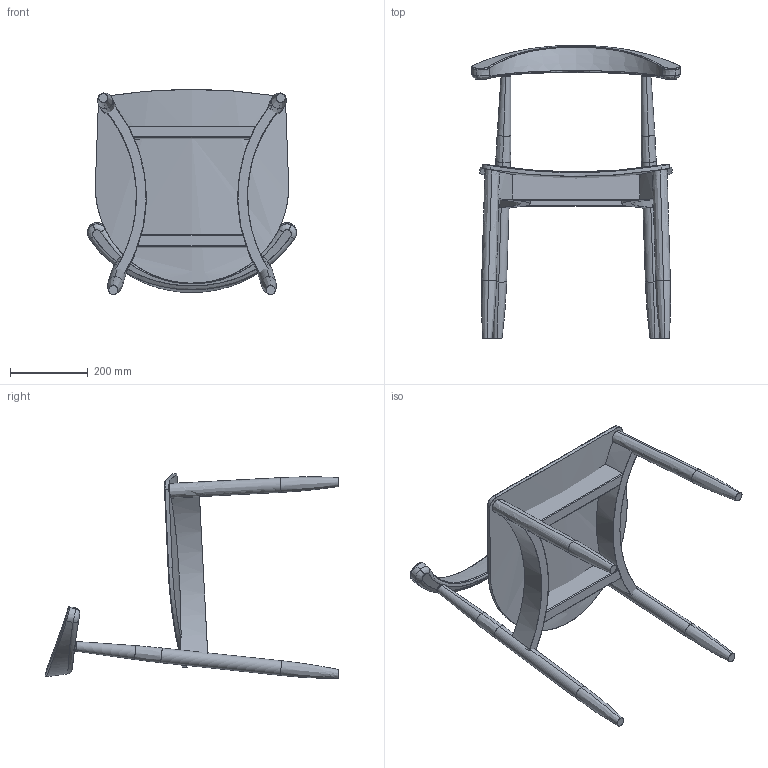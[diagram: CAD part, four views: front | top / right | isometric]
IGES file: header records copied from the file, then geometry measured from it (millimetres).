
Start section: SolidWorks IGES file using analytic representation for surfaces
Global section: file name: C:\Users\adao\Documents\Trab Adao\Desenho técnico PRODUÇÃO\J M S\Catalogo MORE 2016\JOANNE\CADEIRA\3D Cadeiras JOANNE\3D Cadeira JOANNE M-951 WW.IGS; native system: SolidWorks 2017; preprocessor: SolidWorks 2017; author: Adao; date: 171002.151730; units: millimetre
Bounding box: 538.58 x 755.55 x 528.78 mm (x, y, z)
Surface area: 1097193.4 mm2 (no closed solid volume)
Topology: 0 solids, 0 shells, 133 faces, 2178 edges, 2176 vertices
Faces by surface type: bspline 99, revolution 34
